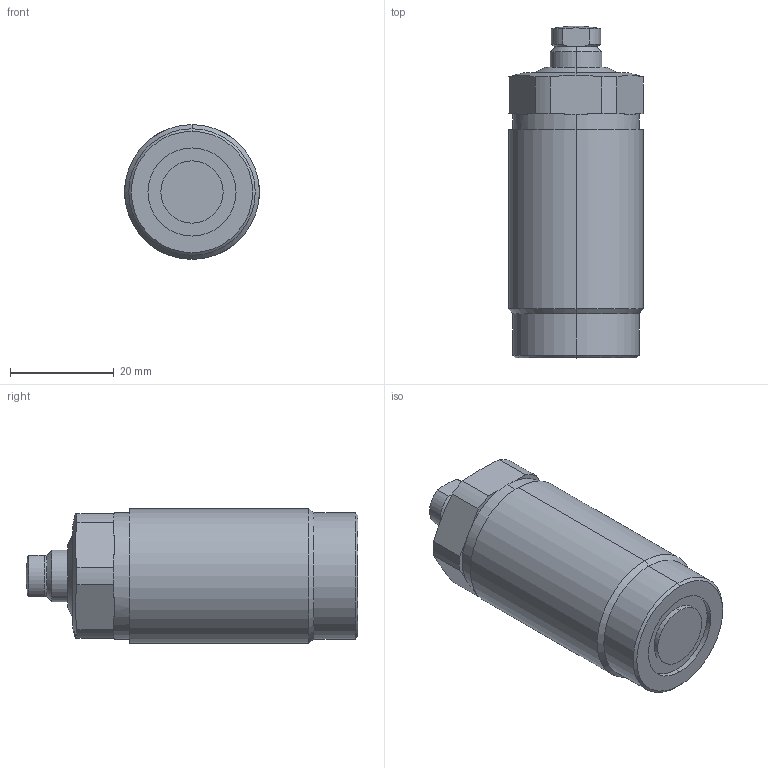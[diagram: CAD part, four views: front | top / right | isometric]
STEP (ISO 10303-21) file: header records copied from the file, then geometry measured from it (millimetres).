
FILE_DESCRIPTION (( 'STEP AP203' ), '1' );
FILE_NAME ('TW09-M260 Work support.SLDPRT.STEP', '2022-07-09T17:14:25', ( '' ), ( '' ), 'SwSTEP 2.0', 'SolidWorks 2017', '' );
FILE_SCHEMA (( 'CONFIG_CONTROL_DESIGN' ));
Length unit declared in the file: millimetre
Products named in the file (4): TW09-M260 part-3; TW09-M260 Work support.SLDPRT; TW09-M260 part-1; TW09-M260 part-2
Assembly tree (3 placements, depth 2):
  TW09-M260 Work support.SLDPRT
    TW09-M260 part-1
    TW09-M260 part-2
    TW09-M260 part-3
Bounding box: 26 x 64 x 26 mm (x, y, z)
Volume: 31664.5 mm3; surface area: 7703.3 mm2
Topology: 3 solids, 3 shells, 258 faces, 662 edges, 434 vertices
Faces by surface type: plane 128, bspline 72, cylinder 30, cone 26, torus 2
Entity records: 12123 total; most frequent: CARTESIAN_POINT 6011, ORIENTED_EDGE 1316, DIRECTION 918, EDGE_CURVE 658, VERTEX_POINT 434, LINE 350, VECTOR 350, EDGE_LOOP 286
